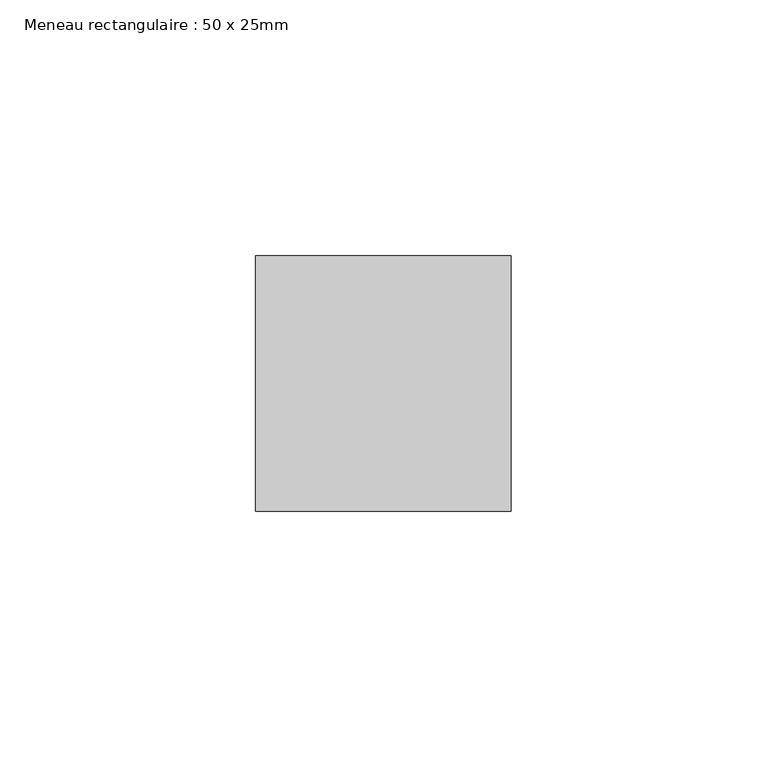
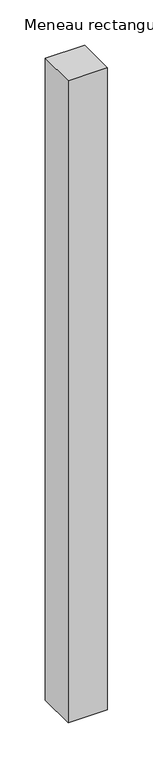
"""IFC4 building model written with IfcOpenShell, lengths in millimetres: member geometry, Meneau rectangulaire : 50 x 25mm."""

import ifcopenshell
import ifcopenshell.guid

model = None  # the IFC model being written
_history = None  # IfcOwnerHistory: only IFC2X3 demands one
_inside = {}  # id of a spatial element -> (the spatial element, [elements in it])
_under = {}  # id of a project, library or spatial element -> (it, [spatial elements below it])
_declared = {}  # id of a project -> (the project, [libraries it declares])
_typed = {}  # id of a type object -> (the type object, [elements of that type])
_made_of = {}  # id of a material, layer set ... -> (it, [elements and type objects made of it])


def new_model(schema):
    """Start an empty IFC model of exactly this schema.

    Asked for "IFC4X3", IfcOpenShell would pick the latest addendum, in which some entities
    have other attributes; the version numbers below select the first issue.
    IFC2X3 requires an IfcOwnerHistory on every rooted entity: one is made here for all.
    """
    global model, _history
    if schema == "IFC4X3":
        model = ifcopenshell.file(schema_version=(4, 3, 0, 0))
    else:
        model = ifcopenshell.file(schema=schema)
    _inside.clear()
    _under.clear()
    _declared.clear()
    _typed.clear()
    _made_of.clear()
    _history = None
    if model.schema == "IFC2X3":
        org = make("IfcOrganization", Name="unknown")
        user = make(
            "IfcPersonAndOrganization",
            ThePerson=make("IfcPerson", FamilyName="unknown"),
            TheOrganization=org,
        )
        app = make(
            "IfcApplication",
            ApplicationDeveloper=org,
            Version="unknown",
            ApplicationFullName="unknown",
            ApplicationIdentifier="unknown",
        )
        _history = make(
            "IfcOwnerHistory",
            OwningUser=user,
            OwningApplication=app,
            ChangeAction="ADDED",
            CreationDate=0,
        )
    return model


def make(cls, **values):
    """One entity of the class cls with the attributes given. An attribute that is None is left unset."""
    return model.create_entity(
        cls, **{name: value for name, value in values.items() if value is not None}
    )


def rooted(cls, **values):
    """An entity with a GlobalId (a new one), such as an element, a storey or a relation."""
    return make(cls, GlobalId=ifcopenshell.guid.new(), OwnerHistory=_history, **values)


def si_unit(unit_type, name, prefix=None):
    """IfcSIUnit, for example si_unit("LENGTHUNIT", "METRE", prefix="MILLI")."""
    return make("IfcSIUnit", UnitType=unit_type, Prefix=prefix, Name=name)


def assignment(units):
    """IfcUnitAssignment: the units of a project."""
    return None if units is None else make("IfcUnitAssignment", Units=units)


def point(xyz):
    """IfcCartesianPoint."""
    return None if xyz is None else make("IfcCartesianPoint", Coordinates=xyz)


def direction(xyz):
    """IfcDirection."""
    return None if xyz is None else make("IfcDirection", DirectionRatios=xyz)


def frame(location, z_axis=None, x_axis=None):
    """IfcAxis2Placement3D, a coordinate frame: its origin and axes. An axis left out is left unset."""
    return make(
        "IfcAxis2Placement3D",
        Location=point(location),
        Axis=direction(z_axis),
        RefDirection=direction(x_axis),
    )


def origin():
    """The frame at (0, 0, 0) with its axes left unset."""
    return frame((0.0, 0.0, 0.0))


def place(relative_to, where):
    """IfcLocalPlacement: puts the frame where relative to a parent placement (None: the world)."""
    return make(
        "IfcLocalPlacement", PlacementRelTo=relative_to, RelativePlacement=where
    )


def context(
    kind, dimensions, precision=None, world=None, true_north=None, identifier=None
):
    """IfcGeometricRepresentationContext, for example the 3D "Model" context."""
    return make(
        "IfcGeometricRepresentationContext",
        ContextIdentifier=identifier,
        ContextType=kind,
        CoordinateSpaceDimension=dimensions,
        Precision=precision,
        WorldCoordinateSystem=world,
        TrueNorth=true_north,
    )


def project(units=None, contexts=None):
    """IfcProject with its units and contexts."""
    return rooted(
        "IfcProject",
        Name="project",
        RepresentationContexts=contexts,
        UnitsInContext=assignment(units),
    )


def spatial(cls, under=None, at=None, **own):
    """A site, building, storey or space (cls), placed at a placement, below another one or the project."""
    s = rooted(cls, ObjectPlacement=at, **own)
    if under is not None:
        _under.setdefault(under.id(), (under, []))[1].append(s)
    return s


def polyline(points):
    """IfcPolyline through the points."""
    return make("IfcPolyline", Points=[point(p) for p in points])


def outline(outer, holes=None, kind="AREA"):
    """IfcArbitraryClosedProfileDef: a profile drawn as a closed curve; with holes, ...WithVoids."""
    if holes is None:
        return make("IfcArbitraryClosedProfileDef", ProfileType=kind, OuterCurve=outer)
    return make(
        "IfcArbitraryProfileDefWithVoids",
        ProfileType=kind,
        OuterCurve=outer,
        InnerCurves=holes,
    )


def extrude(swept, where, along, depth):
    """IfcExtrudedAreaSolid: the profile swept, set in the frame where, extruded along a direction by depth."""
    return make(
        "IfcExtrudedAreaSolid",
        SweptArea=swept,
        Position=where,
        ExtrudedDirection=direction(along),
        Depth=depth,
    )


def shape(context_of_items, identifier, shape_type, items):
    """IfcShapeRepresentation: the items that make up one representation, for example the "Body"."""
    return make(
        "IfcShapeRepresentation",
        ContextOfItems=context_of_items,
        RepresentationIdentifier=identifier,
        RepresentationType=shape_type,
        Items=items,
    )


def source(mapping_origin, context_of_items, identifier, shape_type, items):
    """IfcRepresentationMap: a shape defined once, which mapped items show again and again."""
    return make(
        "IfcRepresentationMap",
        MappingOrigin=mapping_origin,
        MappedRepresentation=shape(context_of_items, identifier, shape_type, items),
    )


def transform(
    local_origin,
    x_axis=None,
    y_axis=None,
    z_axis=None,
    scale=None,
    scale2=None,
    scale3=None,
    uniform=True,
):
    """IfcCartesianTransformationOperator3D, or its non-uniform kind. x_axis, y_axis, z_axis: its Axis1, 2, 3."""
    if uniform:
        return make(
            "IfcCartesianTransformationOperator3D",
            Axis1=direction(x_axis),
            Axis2=direction(y_axis),
            LocalOrigin=point(local_origin),
            Scale=scale,
            Axis3=direction(z_axis),
        )
    return make(
        "IfcCartesianTransformationOperator3DnonUniform",
        Axis1=direction(x_axis),
        Axis2=direction(y_axis),
        LocalOrigin=point(local_origin),
        Scale=scale,
        Axis3=direction(z_axis),
        Scale2=scale2,
        Scale3=scale3,
    )


def mapped(mapping_source, mapping_target):
    """IfcMappedItem: shows the shape of a source again, moved by a transform."""
    return make(
        "IfcMappedItem", MappingSource=mapping_source, MappingTarget=mapping_target
    )


def made_of(thing, what):
    """Note that an element or type object is made of a material, layer set ...; save() writes the relation."""
    if what is not None:
        _made_of.setdefault(what.id(), (what, []))[1].append(thing)
    return thing


def element(
    cls,
    number,
    at=None,
    inside=None,
    cuts=None,
    type_object=None,
    material=None,
    context=None,
    identifier="Body",
    shape_type=None,
    held_by="IfcProductDefinitionShape",
    body=None,
    shapes=None,
    **own,
):
    """One element of the class cls, such as IfcWall. Its Tag is "e" and its number.

    at: its placement. inside: the storey or other place that contains it. cuts: it is an
    opening in that element (IfcRelVoidsElement). A single representation is given by context,
    identifier, shape_type and body (its items); several are given by shapes. held_by: the class
    of the entity that holds the representations. save() writes the other relations.
    """
    e = rooted(cls, Tag="e%d" % number, ObjectPlacement=at, **own)
    if body is not None:
        shapes = [shape(context, identifier, shape_type, body)]
    if shapes is not None:
        e.Representation = make(held_by, Representations=shapes)
    if inside is not None:
        _inside.setdefault(inside.id(), (inside, []))[1].append(e)
    if cuts is not None:
        rooted(
            "IfcRelVoidsElement", RelatingBuildingElement=cuts, RelatedOpeningElement=e
        )
    if type_object is not None:
        _typed.setdefault(type_object.id(), (type_object, []))[1].append(e)
    return made_of(e, material)


def aggregate(whole, parts):
    """IfcRelAggregates: a whole, such as a stair, and the parts it consists of."""
    return rooted("IfcRelAggregates", RelatingObject=whole, RelatedObjects=parts)


def save(model, path):
    """Write the relations noted so far, then the file.

    IfcRelAggregates (storeys below a building ...), IfcRelContainedInSpatialStructure (elements
    in a storey), IfcRelDefinesByType, IfcRelAssociatesMaterial and IfcRelDeclares: one each for
    every whole, place, type object, material and project.
    """
    for whole, parts in _under.values():
        aggregate(whole, parts)
    for where, things in _inside.values():
        rooted(
            "IfcRelContainedInSpatialStructure",
            RelatedElements=things,
            RelatingStructure=where,
        )
    for kind, things in _typed.values():
        rooted("IfcRelDefinesByType", RelatedObjects=things, RelatingType=kind)
    for what, things in _made_of.values():
        rooted("IfcRelAssociatesMaterial", RelatedObjects=things, RelatingMaterial=what)
    for by, libraries in _declared.values():
        rooted("IfcRelDeclares", RelatingContext=by, RelatedDefinitions=libraries)
    model.write(path)


def meneau_rectangulaire_50_x_25mm_404591a0(model_context):
    return source(origin(), model_context, "Body", "SweptSolid", [
        extrude(outline(polyline([(25.0, 0.0), (25.0, -50.0), (-25.0, -50.0), (-25.0, 0.0), (25.0, 0.0)])), frame((0.0, 0.0, -862.5497655), z_axis=(0.0, 0.0, 1.0), x_axis=(1.0, 0.0, 0.0)), (0.0, 0.0, 1.0), 862.5497655),
    ])


if __name__ == "__main__":
    model = new_model("IFC4")
    model_context = context("Model", 3, world=origin())
    ifc_project = project(units=[si_unit("LENGTHUNIT", "METRE", prefix="MILLI")], contexts=[model_context])
    site = spatial("IfcSite", under=ifc_project)
    building = spatial("IfcBuilding", under=site)
    placement = place(None, origin())
    meneau_rectangulaire_50_x_25mm_shape = meneau_rectangulaire_50_x_25mm_404591a0(model_context)
    element("IfcMember", 1, ObjectType="Meneau rectangulaire : 50 x 25mm", at=placement, inside=building, context=model_context, shape_type="MappedRepresentation", body=[
        mapped(meneau_rectangulaire_50_x_25mm_shape, transform((0.0, 0.0, 0.0), x_axis=(1.0, 0.0, 0.0), y_axis=(0.0, 1.0, 0.0), z_axis=(0.0, 0.0, 1.0))),
    ])
    save(model, "model.ifc")
